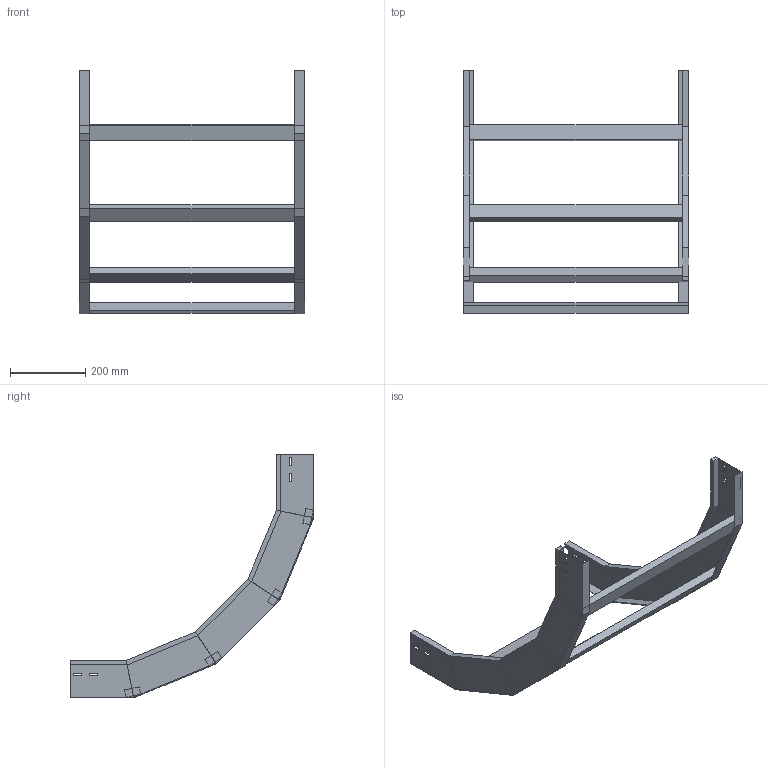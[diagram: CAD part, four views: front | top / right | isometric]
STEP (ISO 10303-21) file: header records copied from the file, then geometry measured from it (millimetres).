
FILE_DESCRIPTION (( 'STEP AP214' ), '1' );
FILE_NAME ('A2X30B5D600XX.step', '2025-03-20T10:19:46', ( '' ), ( '' ), 'SwSTEP 2.0', 'SolidWorks 2023', '' );
FILE_SCHEMA (( 'AUTOMOTIVE_DESIGN' ));
Length unit declared in the file: millimetre
Products named in the file (3): TRAVERSINO_600; LONGH.SALITA_90°_H100_R500; A2X30B5D600XX
Assembly tree (6 placements, depth 2):
  A2X30B5D600XX
    LONGH.SALITA_90°_H100_R500  x2
    TRAVERSINO_600  x4
Bounding box: 600 x 649.05 x 649.05 mm (x, y, z)
Volume: 2770445.4 mm3; surface area: 855583.1 mm2
Topology: 6 solids, 6 shells, 140 faces, 320 edges, 192 vertices
Faces by surface type: plane 140
Entity records: 1872 total; most frequent: CARTESIAN_POINT 309, ORIENTED_EDGE 296, DIRECTION 294, VECTOR 148, EDGE_CURVE 148, LINE 148, VERTEX_POINT 88, AXIS2_PLACEMENT_3D 73
